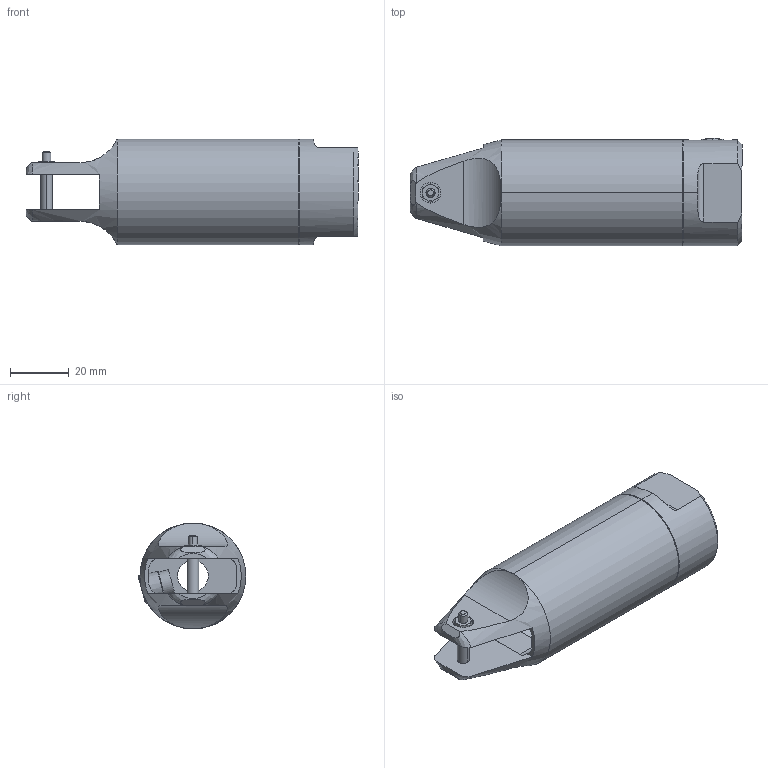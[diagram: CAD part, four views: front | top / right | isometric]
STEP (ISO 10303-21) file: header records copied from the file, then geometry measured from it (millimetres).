
FILE_DESCRIPTION (( 'STEP AP214' ), '1' );
FILE_NAME ('GT-NR10L.STEP', '2019-11-28T00:57:59', ( '微软用户' ), ( '微软中国' ), 'SwSTEP 2.0', 'SolidWorks 2016', '' );
FILE_SCHEMA (( 'AUTOMOTIVE_DESIGN' ));
Length unit declared in the file: millimetre
Products named in the file (1): GT-NR10L
Bounding box: 113 x 36.6 x 36 mm (x, y, z)
Surface area: 15791.9 mm2 (no closed solid volume)
Topology: 0 solids, 7 shells, 135 faces, 343 edges, 213 vertices
Faces by surface type: plane 56, cone 38, cylinder 38, bspline 3
Entity records: 6160 total; most frequent: CARTESIAN_POINT 3040, DIRECTION 632, ORIENTED_EDGE 621, EDGE_CURVE 332, AXIS2_PLACEMENT_3D 255, VERTEX_POINT 210, EDGE_LOOP 151, FACE_OUTER_BOUND 133
